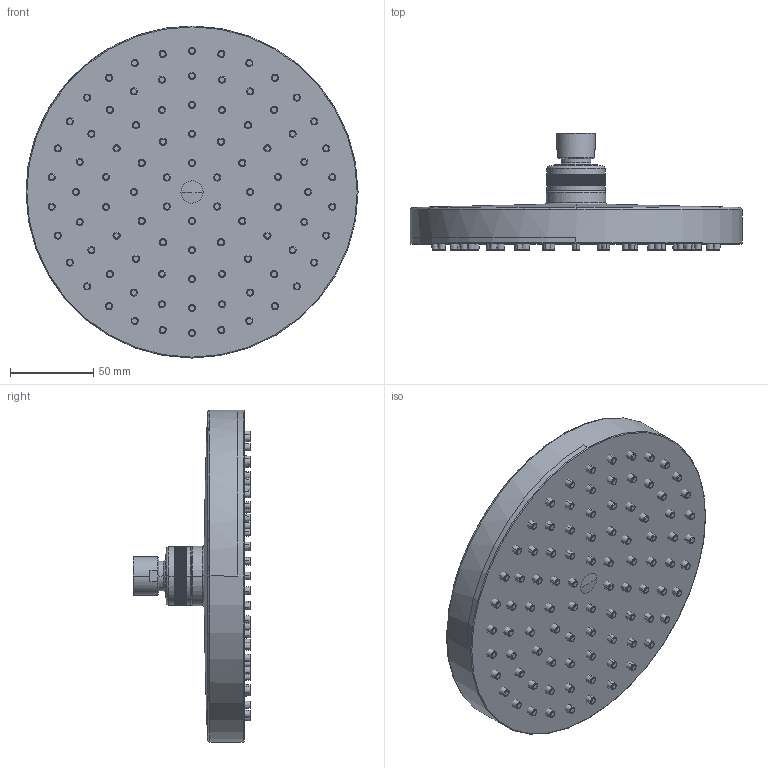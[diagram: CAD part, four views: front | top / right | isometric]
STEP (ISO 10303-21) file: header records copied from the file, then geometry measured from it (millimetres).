
FILE_DESCRIPTION((''),'2;1');
FILE_NAME('76557_IGES_SOLEX_SW0001','2026-10-01T13:43:15',('simi1'),(''),'CREO PARAMETRIC BY PTC INC, 2022244','CREO PARAMETRIC BY PTC INC, 2022244','');
FILE_SCHEMA(('CONFIG_CONTROL_DESIGN'));
Products named in the file (1): 76557_IGES_SOLEX_SW0001
Bounding box: 200 x 70.8 x 200 mm (x, y, z)
Surface area: 90367 mm2 (no closed solid volume)
Topology: 0 solids, 966 shells, 2262 faces, 7302 edges, 5986 vertices
Faces by surface type: plane 980, cylinder 899, torus 190, cone 185, sphere 6, bspline 2
Entity records: 79146 total; most frequent: CARTESIAN_POINT 21579, DIRECTION 11870, ORIENTED_EDGE 9113, EDGE_CURVE 7300, VERTEX_POINT 5986, AXIS2_PLACEMENT_3D 4971, CIRCLE 2711, B_SPLINE_CURVE_WITH_KNOTS 2661
